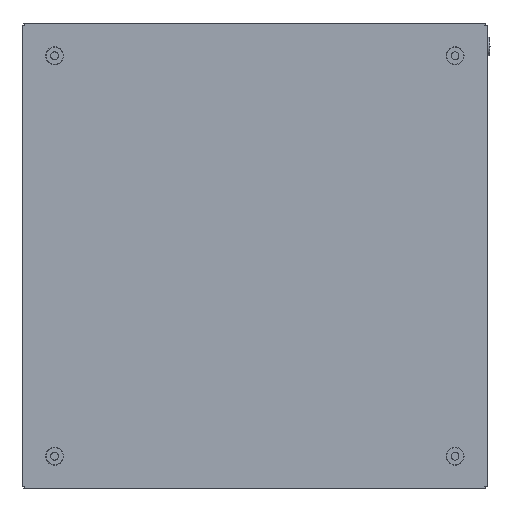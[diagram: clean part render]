
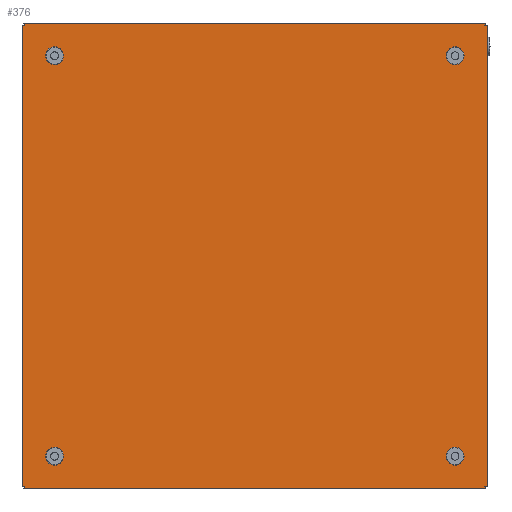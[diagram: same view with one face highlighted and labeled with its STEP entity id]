
A CAD part, front view. The second image highlights one B-rep face of the part: STEP entity #376.
In plain terms, the highlighted planar face has unit normal (0, -1, 0).
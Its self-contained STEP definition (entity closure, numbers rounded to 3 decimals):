
#376 = ADVANCED_FACE('',(#377,#397,#408,#428,#439),#561,.T.);
#377 = FACE_BOUND('',#378,.T.);
#378 = EDGE_LOOP('',(#379,#390));
#379 = ORIENTED_EDGE('',*,*,#380,.F.);
#380 = EDGE_CURVE('',#381,#383,#385,.T.);
#381 = VERTEX_POINT('',#382);
#382 = CARTESIAN_POINT('',(-129.,-1.2,-125.1));
#383 = VERTEX_POINT('',#384);
#384 = CARTESIAN_POINT('',(-129.,-1.2,-132.9));
#385 = CIRCLE('',#386,3.9);
#386 = AXIS2_PLACEMENT_3D('',#387,#388,#389);
#387 = CARTESIAN_POINT('',(-129.,-1.2,-129.));
#388 = DIRECTION('',(0.,-1.,0.));
#389 = DIRECTION('',(0.,0.,1.));
#390 = ORIENTED_EDGE('',*,*,#391,.F.);
#391 = EDGE_CURVE('',#383,#381,#392,.T.);
#392 = CIRCLE('',#393,3.9);
#393 = AXIS2_PLACEMENT_3D('',#394,#395,#396);
#394 = CARTESIAN_POINT('',(-129.,-1.2,-129.));
#395 = DIRECTION('',(0.,-1.,0.));
#396 = DIRECTION('',(0.,0.,1.));
#397 = FACE_BOUND('',#398,.T.);
#398 = EDGE_LOOP('',(#399));
#399 = ORIENTED_EDGE('',*,*,#400,.F.);
#400 = EDGE_CURVE('',#401,#401,#403,.T.);
#401 = VERTEX_POINT('',#402);
#402 = CARTESIAN_POINT('',(129.,-1.2,-132.9));
#403 = CIRCLE('',#404,3.9);
#404 = AXIS2_PLACEMENT_3D('',#405,#406,#407);
#405 = CARTESIAN_POINT('',(129.,-1.2,-129.));
#406 = DIRECTION('',(0.,-1.,0.));
#407 = DIRECTION('',(0.,0.,-1.));
#408 = FACE_BOUND('',#409,.T.);
#409 = EDGE_LOOP('',(#410,#421));
#410 = ORIENTED_EDGE('',*,*,#411,.F.);
#411 = EDGE_CURVE('',#412,#414,#416,.T.);
#412 = VERTEX_POINT('',#413);
#413 = CARTESIAN_POINT('',(129.,-1.2,132.9));
#414 = VERTEX_POINT('',#415);
#415 = CARTESIAN_POINT('',(129.,-1.2,125.1));
#416 = CIRCLE('',#417,3.9);
#417 = AXIS2_PLACEMENT_3D('',#418,#419,#420);
#418 = CARTESIAN_POINT('',(129.,-1.2,129.));
#419 = DIRECTION('',(0.,-1.,0.));
#420 = DIRECTION('',(0.,0.,1.));
#421 = ORIENTED_EDGE('',*,*,#422,.F.);
#422 = EDGE_CURVE('',#414,#412,#423,.T.);
#423 = CIRCLE('',#424,3.9);
#424 = AXIS2_PLACEMENT_3D('',#425,#426,#427);
#425 = CARTESIAN_POINT('',(129.,-1.2,129.));
#426 = DIRECTION('',(0.,-1.,0.));
#427 = DIRECTION('',(0.,0.,1.));
#428 = FACE_BOUND('',#429,.T.);
#429 = EDGE_LOOP('',(#430));
#430 = ORIENTED_EDGE('',*,*,#431,.F.);
#431 = EDGE_CURVE('',#432,#432,#434,.T.);
#432 = VERTEX_POINT('',#433);
#433 = CARTESIAN_POINT('',(-129.,-1.2,125.1));
#434 = CIRCLE('',#435,3.9);
#435 = AXIS2_PLACEMENT_3D('',#436,#437,#438);
#436 = CARTESIAN_POINT('',(-129.,-1.2,129.));
#437 = DIRECTION('',(0.,-1.,0.));
#438 = DIRECTION('',(0.,0.,-1.));
#439 = FACE_BOUND('',#440,.T.);
#440 = EDGE_LOOP('',(#441,#454,#465,#473,#484,#495,#503,#514,#525,#533,
    #544,#555));
#441 = ORIENTED_EDGE('',*,*,#442,.F.);
#442 = EDGE_CURVE('',#443,#445,#447,.T.);
#443 = VERTEX_POINT('',#444);
#444 = CARTESIAN_POINT('',(148.2,-1.2,148.2));
#445 = VERTEX_POINT('',#446);
#446 = CARTESIAN_POINT('',(150.,-1.2,148.574));
#447 = B_SPLINE_CURVE_WITH_KNOTS('',3,(#448,#449,#450,#451,#452,#453),
  .UNSPECIFIED.,.F.,.F.,(4,2,4),(0.004,0.005,
    0.006),.UNSPECIFIED.);
#448 = CARTESIAN_POINT('',(148.2,-1.2,148.2));
#449 = CARTESIAN_POINT('',(148.495,-1.2,148.287));
#450 = CARTESIAN_POINT('',(148.79,-1.2,148.371));
#451 = CARTESIAN_POINT('',(149.39,-1.2,148.498));
#452 = CARTESIAN_POINT('',(149.695,-1.2,148.543));
#453 = CARTESIAN_POINT('',(150.,-1.2,148.574));
#454 = ORIENTED_EDGE('',*,*,#455,.T.);
#455 = EDGE_CURVE('',#443,#456,#458,.T.);
#456 = VERTEX_POINT('',#457);
#457 = CARTESIAN_POINT('',(148.574,-1.2,150.));
#458 = B_SPLINE_CURVE_WITH_KNOTS('',3,(#459,#460,#461,#462,#463,#464),
  .UNSPECIFIED.,.F.,.F.,(4,2,4),(0.004,0.005,
    0.006),.UNSPECIFIED.);
#459 = CARTESIAN_POINT('',(148.2,-1.2,148.2));
#460 = CARTESIAN_POINT('',(148.287,-1.2,148.495));
#461 = CARTESIAN_POINT('',(148.371,-1.2,148.79));
#462 = CARTESIAN_POINT('',(148.498,-1.2,149.39));
#463 = CARTESIAN_POINT('',(148.543,-1.2,149.695));
#464 = CARTESIAN_POINT('',(148.574,-1.2,150.));
#465 = ORIENTED_EDGE('',*,*,#466,.T.);
#466 = EDGE_CURVE('',#456,#467,#469,.T.);
#467 = VERTEX_POINT('',#468);
#468 = CARTESIAN_POINT('',(-148.574,-1.2,150.));
#469 = LINE('',#470,#471);
#470 = CARTESIAN_POINT('',(1650.,-1.2,150.));
#471 = VECTOR('',#472,1.);
#472 = DIRECTION('',(-1.,0.,0.));
#473 = ORIENTED_EDGE('',*,*,#474,.F.);
#474 = EDGE_CURVE('',#475,#467,#477,.T.);
#475 = VERTEX_POINT('',#476);
#476 = CARTESIAN_POINT('',(-148.2,-1.2,148.2));
#477 = B_SPLINE_CURVE_WITH_KNOTS('',3,(#478,#479,#480,#481,#482,#483),
  .UNSPECIFIED.,.F.,.F.,(4,2,4),(0.004,0.005,
    0.006),.UNSPECIFIED.);
#478 = CARTESIAN_POINT('',(-148.2,-1.2,148.2));
#479 = CARTESIAN_POINT('',(-148.287,-1.2,148.495));
#480 = CARTESIAN_POINT('',(-148.371,-1.2,148.79));
#481 = CARTESIAN_POINT('',(-148.498,-1.2,149.39));
#482 = CARTESIAN_POINT('',(-148.543,-1.2,149.695));
#483 = CARTESIAN_POINT('',(-148.574,-1.2,150.));
#484 = ORIENTED_EDGE('',*,*,#485,.T.);
#485 = EDGE_CURVE('',#475,#486,#488,.T.);
#486 = VERTEX_POINT('',#487);
#487 = CARTESIAN_POINT('',(-150.,-1.2,148.574));
#488 = B_SPLINE_CURVE_WITH_KNOTS('',3,(#489,#490,#491,#492,#493,#494),
  .UNSPECIFIED.,.F.,.F.,(4,2,4),(0.004,0.005,
    0.006),.UNSPECIFIED.);
#489 = CARTESIAN_POINT('',(-148.2,-1.2,148.2));
#490 = CARTESIAN_POINT('',(-148.495,-1.2,148.287));
#491 = CARTESIAN_POINT('',(-148.79,-1.2,148.371));
#492 = CARTESIAN_POINT('',(-149.39,-1.2,148.498));
#493 = CARTESIAN_POINT('',(-149.695,-1.2,148.543));
#494 = CARTESIAN_POINT('',(-150.,-1.2,148.574));
#495 = ORIENTED_EDGE('',*,*,#496,.T.);
#496 = EDGE_CURVE('',#486,#497,#499,.T.);
#497 = VERTEX_POINT('',#498);
#498 = CARTESIAN_POINT('',(-150.,-1.2,-148.574));
#499 = LINE('',#500,#501);
#500 = CARTESIAN_POINT('',(-150.,-1.2,1650.));
#501 = VECTOR('',#502,1.);
#502 = DIRECTION('',(0.,0.,-1.));
#503 = ORIENTED_EDGE('',*,*,#504,.F.);
#504 = EDGE_CURVE('',#505,#497,#507,.T.);
#505 = VERTEX_POINT('',#506);
#506 = CARTESIAN_POINT('',(-148.2,-1.2,-148.2));
#507 = B_SPLINE_CURVE_WITH_KNOTS('',3,(#508,#509,#510,#511,#512,#513),
  .UNSPECIFIED.,.F.,.F.,(4,2,4),(0.004,0.005,
    0.006),.UNSPECIFIED.);
#508 = CARTESIAN_POINT('',(-148.2,-1.2,-148.2));
#509 = CARTESIAN_POINT('',(-148.495,-1.2,-148.287));
#510 = CARTESIAN_POINT('',(-148.79,-1.2,-148.371));
#511 = CARTESIAN_POINT('',(-149.39,-1.2,-148.498));
#512 = CARTESIAN_POINT('',(-149.695,-1.2,-148.543));
#513 = CARTESIAN_POINT('',(-150.,-1.2,-148.574));
#514 = ORIENTED_EDGE('',*,*,#515,.T.);
#515 = EDGE_CURVE('',#505,#516,#518,.T.);
#516 = VERTEX_POINT('',#517);
#517 = CARTESIAN_POINT('',(-148.574,-1.2,-150.));
#518 = B_SPLINE_CURVE_WITH_KNOTS('',3,(#519,#520,#521,#522,#523,#524),
  .UNSPECIFIED.,.F.,.F.,(4,2,4),(0.004,0.005,
    0.006),.UNSPECIFIED.);
#519 = CARTESIAN_POINT('',(-148.2,-1.2,-148.2));
#520 = CARTESIAN_POINT('',(-148.287,-1.2,-148.495));
#521 = CARTESIAN_POINT('',(-148.371,-1.2,-148.79));
#522 = CARTESIAN_POINT('',(-148.498,-1.2,-149.39));
#523 = CARTESIAN_POINT('',(-148.543,-1.2,-149.695));
#524 = CARTESIAN_POINT('',(-148.574,-1.2,-150.));
#525 = ORIENTED_EDGE('',*,*,#526,.T.);
#526 = EDGE_CURVE('',#516,#527,#529,.T.);
#527 = VERTEX_POINT('',#528);
#528 = CARTESIAN_POINT('',(148.574,-1.2,-150.));
#529 = LINE('',#530,#531);
#530 = CARTESIAN_POINT('',(-1650.,-1.2,-150.));
#531 = VECTOR('',#532,1.);
#532 = DIRECTION('',(1.,0.,0.));
#533 = ORIENTED_EDGE('',*,*,#534,.F.);
#534 = EDGE_CURVE('',#535,#527,#537,.T.);
#535 = VERTEX_POINT('',#536);
#536 = CARTESIAN_POINT('',(148.2,-1.2,-148.2));
#537 = B_SPLINE_CURVE_WITH_KNOTS('',3,(#538,#539,#540,#541,#542,#543),
  .UNSPECIFIED.,.F.,.F.,(4,2,4),(0.004,0.005,
    0.006),.UNSPECIFIED.);
#538 = CARTESIAN_POINT('',(148.2,-1.2,-148.2));
#539 = CARTESIAN_POINT('',(148.287,-1.2,-148.495));
#540 = CARTESIAN_POINT('',(148.371,-1.2,-148.79));
#541 = CARTESIAN_POINT('',(148.498,-1.2,-149.39));
#542 = CARTESIAN_POINT('',(148.543,-1.2,-149.695));
#543 = CARTESIAN_POINT('',(148.574,-1.2,-150.));
#544 = ORIENTED_EDGE('',*,*,#545,.T.);
#545 = EDGE_CURVE('',#535,#546,#548,.T.);
#546 = VERTEX_POINT('',#547);
#547 = CARTESIAN_POINT('',(150.,-1.2,-148.574));
#548 = B_SPLINE_CURVE_WITH_KNOTS('',3,(#549,#550,#551,#552,#553,#554),
  .UNSPECIFIED.,.F.,.F.,(4,2,4),(0.004,0.005,
    0.006),.UNSPECIFIED.);
#549 = CARTESIAN_POINT('',(148.2,-1.2,-148.2));
#550 = CARTESIAN_POINT('',(148.495,-1.2,-148.287));
#551 = CARTESIAN_POINT('',(148.79,-1.2,-148.371));
#552 = CARTESIAN_POINT('',(149.39,-1.2,-148.498));
#553 = CARTESIAN_POINT('',(149.695,-1.2,-148.543));
#554 = CARTESIAN_POINT('',(150.,-1.2,-148.574));
#555 = ORIENTED_EDGE('',*,*,#556,.T.);
#556 = EDGE_CURVE('',#546,#445,#557,.T.);
#557 = LINE('',#558,#559);
#558 = CARTESIAN_POINT('',(150.,-1.2,-1650.));
#559 = VECTOR('',#560,1.);
#560 = DIRECTION('',(0.,0.,1.));
#561 = PLANE('',#562);
#562 = AXIS2_PLACEMENT_3D('',#563,#564,#565);
#563 = CARTESIAN_POINT('',(0.,-1.2,0.));
#564 = DIRECTION('',(0.,-1.,0.));
#565 = DIRECTION('',(0.,-0.,-1.));
